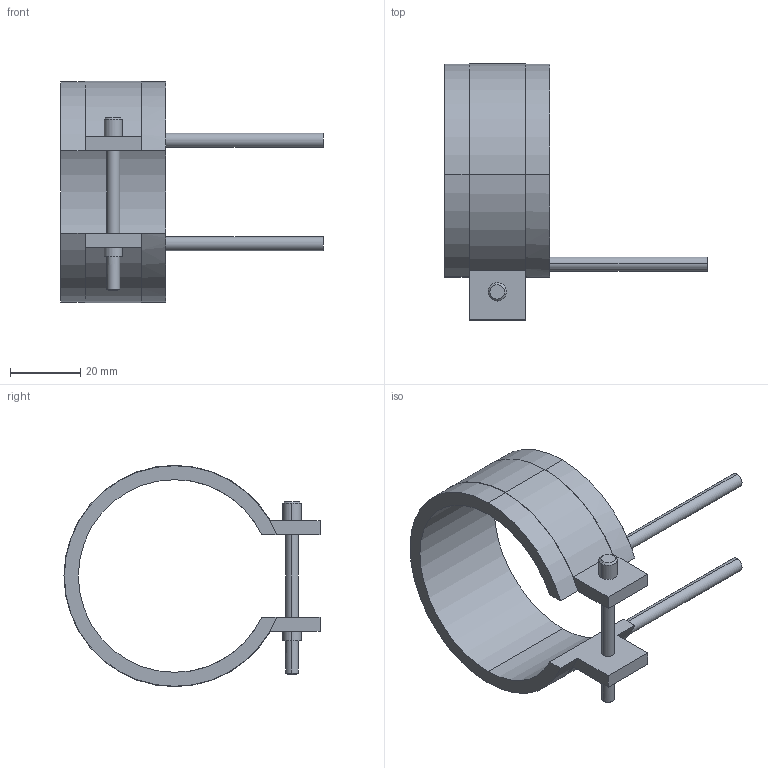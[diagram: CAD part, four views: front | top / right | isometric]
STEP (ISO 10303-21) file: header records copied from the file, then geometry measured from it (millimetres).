
FILE_DESCRIPTION(('CATIA V5 STEP Exchange'),'2;1');
FILE_NAME('C:\Users\Utente\Desktop\IO LAVORO\3D X SITO CF\X SITO\PLASTICA\RF2\14055030.stp','2021-04-01T09:36:00+00:00',('none'),('none'),'CATIA Version 5 Release 20 GA (IN-10)','CATIA V5 STEP AP203','none');
FILE_SCHEMA(('CONFIG_CONTROL_DESIGN'));
Length unit declared in the file: millimetre
Products named in the file (1): 14055030
Bounding box: 75 x 73.1 x 63.2 mm (x, y, z)
Volume: 22950.1 mm3; surface area: 13924.3 mm2
Topology: 1 solids, 1 shells, 45 faces, 116 edges, 76 vertices
Faces by surface type: cylinder 24, plane 17, cone 4
Entity records: 1400 total; most frequent: CARTESIAN_POINT 274, ORIENTED_EDGE 232, DIRECTION 196, EDGE_CURVE 116, AXIS2_PLACEMENT_3D 104, VERTEX_POINT 76, CIRCLE 62, VECTOR 52
